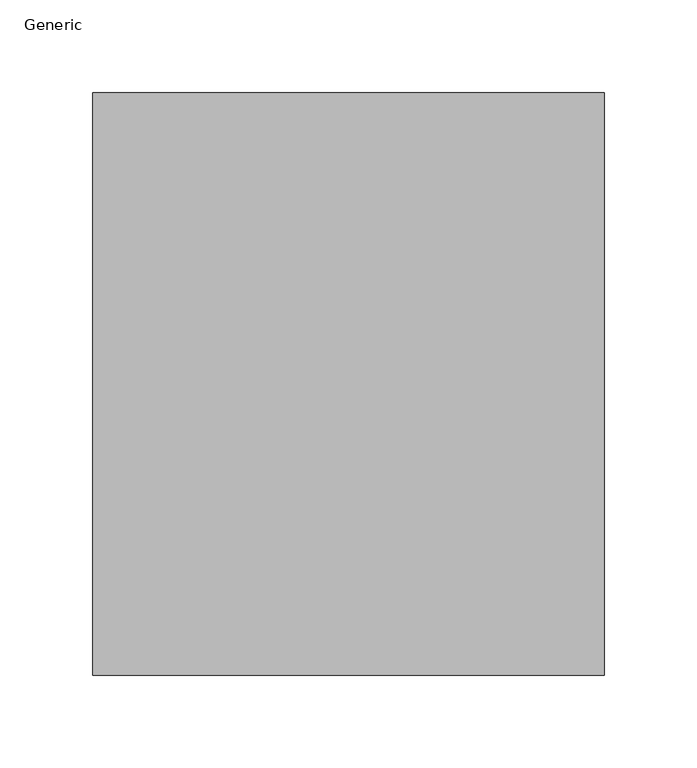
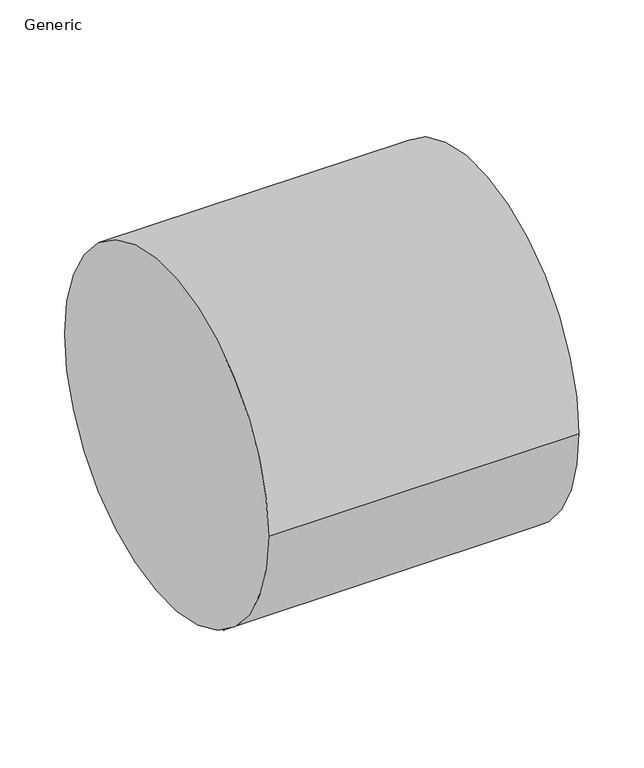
"""IFC4 building model written with IfcOpenShell, lengths in millimetres: proxy geometry, GM_Conduct : Generic."""

from ifc_helpers import new_model, si_unit, point, frame, frame_2d, origin, place, context, project, spatial, circle_curve, trimmed, segment, composite_curve, outline, extrude, source, transform, mapped, element, save


def generic_617cf1fd(model_context):
    return source(origin(), model_context, "Body", "SweptSolid", [
        extrude(outline(composite_curve([segment(trimmed(circle_curve(frame_2d((0.0, 114.5)), 157.5), [point((-157.5, 114.5))], [point((157.5, 114.5))], False, "CARTESIAN"), True, "CONTINUOUS"), segment(trimmed(circle_curve(frame_2d((0.0, 114.5)), 157.5), [point((157.5, 114.5))], [point((-157.5, 114.5))], False, "CARTESIAN"), True, "CONTINUOUS")], self_intersect=False)), frame((0.0, 0.0, 0.0), z_axis=(1.0, 0.0, 0.0), x_axis=(0.0, 1.0, 0.0)), (0.0, 0.0, 1.0), 276.5),
    ])


if __name__ == "__main__":
    model = new_model("IFC4")
    model_context = context("Model", 3, world=origin())
    ifc_project = project(units=[si_unit("LENGTHUNIT", "METRE", prefix="MILLI")], contexts=[model_context])
    site = spatial("IfcSite", under=ifc_project)
    building = spatial("IfcBuilding", under=site)
    placement = place(None, origin())
    generic_shape = generic_617cf1fd(model_context)
    element("IfcBuildingElementProxy", 1, Name="GM_Conduct : Generic", ObjectType="GM_Conduct : Generic", at=placement, inside=building, context=model_context, shape_type="MappedRepresentation", body=[
        mapped(generic_shape, transform((0.0, 0.0, 0.0), x_axis=(1.0, 0.0, 0.0), y_axis=(0.0, 1.0, 0.0), z_axis=(0.0, 0.0, 1.0))),
    ])
    save(model, "model.ifc")
